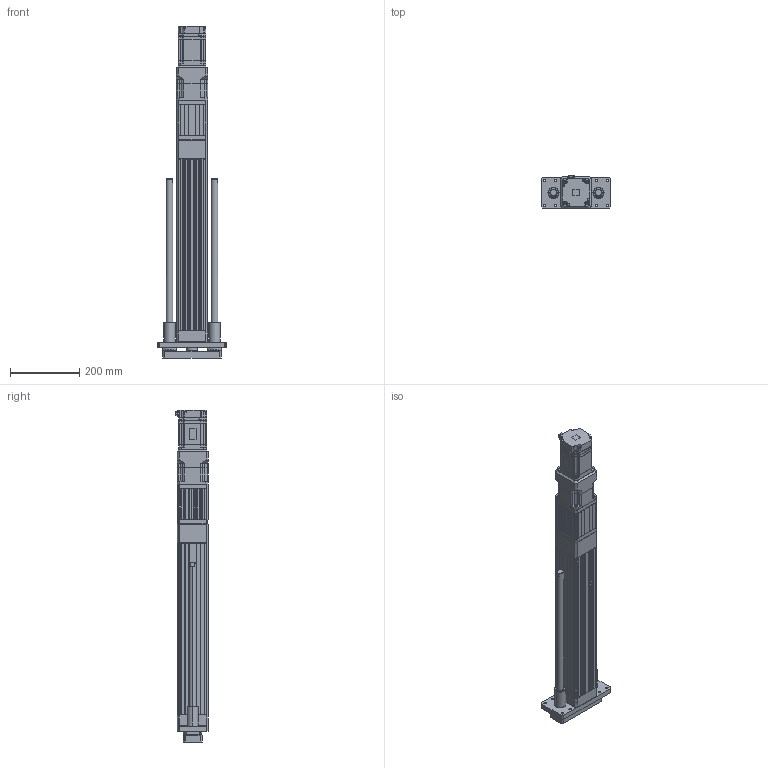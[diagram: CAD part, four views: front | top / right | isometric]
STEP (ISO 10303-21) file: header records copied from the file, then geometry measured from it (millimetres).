
FILE_DESCRIPTION (( 'STEP AP203' ), '1' );
FILE_NAME ('ANS090H-GS350-05(10)(25)-W75G05.STEP', '2019-03-18T02:04:24', ( 'user' ), ( '' ), 'SwSTEP 2.0', 'SolidWorks 2013', '' );
FILE_SCHEMA (( 'CONFIG_CONTROL_DESIGN' ));
Length unit declared in the file: millimetre
Products named in the file (5): ANS090H GS350 VER2; ANS090 ROD ST350-G; SGMJV_08A_A21; AB090-005-S1-P2[YASKAWA SGMJV08A]; ANS090H-GS350-05(10)(25)-W75G05
Assembly tree (4 placements, depth 2):
  ANS090H-GS350-05(10)(25)-W75G05
    ANS090H GS350 VER2
    ANS090 ROD ST350-G
    SGMJV_08A_A21
    AB090-005-S1-P2[YASKAWA SGMJV08A]
Bounding box: 200 x 93.8 x 958.1 mm (x, y, z)
Volume: 4464418.4 mm3; surface area: 852655.7 mm2
Topology: 3 solids, 14 shells, 1903 faces, 5056 edges, 3262 vertices
Faces by surface type: plane 1124, cylinder 581, cone 182, bspline 12, torus 4
Entity records: 59660 total; most frequent: CARTESIAN_POINT 11290, ORIENTED_EDGE 9984, DIRECTION 9947, EDGE_CURVE 5036, LINE 3517, VECTOR 3517, VERTEX_POINT 3262, AXIS2_PLACEMENT_3D 3215
